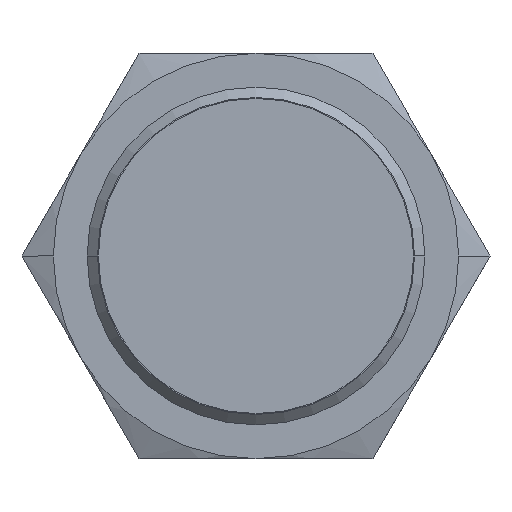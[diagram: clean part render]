
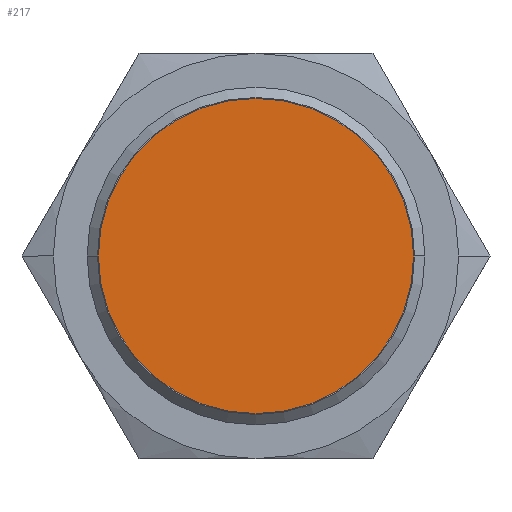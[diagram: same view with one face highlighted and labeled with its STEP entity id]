
A CAD part, left-side view. The second image highlights one B-rep face of the part: STEP entity #217.
In plain terms, the highlighted planar face has unit normal (-1, 0, 0).
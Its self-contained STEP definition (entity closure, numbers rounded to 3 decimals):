
#217 = ADVANCED_FACE( '', ( #378 ), #379, .T. );
#378 = FACE_OUTER_BOUND( '', #603, .T. );
#379 = PLANE( '', #604 );
#603 = EDGE_LOOP( '', ( #1101, #1102 ) );
#604 = AXIS2_PLACEMENT_3D( '', #1103, #1104, #1105 );
#1101 = ORIENTED_EDGE( '', *, *, #1545, .T. );
#1102 = ORIENTED_EDGE( '', *, *, #1659, .T. );
#1103 = CARTESIAN_POINT( '', ( -4., 7., 0. ) );
#1104 = DIRECTION( '', ( -1., 0., 0. ) );
#1105 = DIRECTION( '', ( 0., 1., 0. ) );
#1545 = EDGE_CURVE( '', #1789, #1793, #1795, .T. );
#1659 = EDGE_CURVE( '', #1793, #1789, #1979, .T. );
#1789 = VERTEX_POINT( '', #2181 );
#1793 = VERTEX_POINT( '', #2186 );
#1795 = CIRCLE( '', #2189, 14. );
#1979 = CIRCLE( '', #2439, 14. );
#2181 = CARTESIAN_POINT( '', ( -4., 14., 0. ) );
#2186 = CARTESIAN_POINT( '', ( -4., -14., 0. ) );
#2189 = AXIS2_PLACEMENT_3D( '', #3109, #3110, #3111 );
#2439 = AXIS2_PLACEMENT_3D( '', #3319, #3320, #3321 );
#3109 = CARTESIAN_POINT( '', ( -4., 0., 0. ) );
#3110 = DIRECTION( '', ( -1., 0., 0. ) );
#3111 = DIRECTION( '', ( 0., 1., 0. ) );
#3319 = CARTESIAN_POINT( '', ( -4., 0., 0. ) );
#3320 = DIRECTION( '', ( -1., 0., 0. ) );
#3321 = DIRECTION( '', ( 0., 1., 0. ) );
